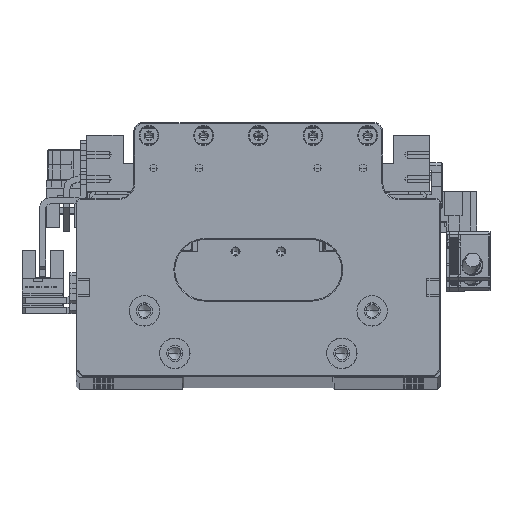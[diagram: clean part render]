
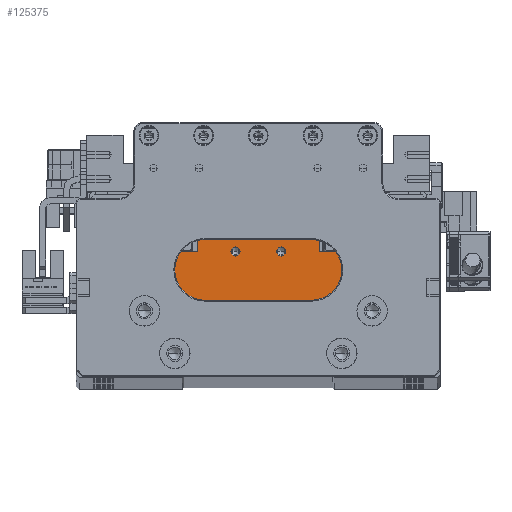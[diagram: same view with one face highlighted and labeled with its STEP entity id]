
A CAD part, top view. The second image highlights one B-rep face of the part: STEP entity #125375.
In plain terms, the highlighted planar face has unit normal (0, 0, 1).
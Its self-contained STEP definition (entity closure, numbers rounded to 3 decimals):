
#1750 = AXIS2_PLACEMENT_3D ( 'NONE', #100272, #33778, #111480 ) ;
#2420 = CARTESIAN_POINT ( 'NONE',  ( -90.125, 82.98, 462.722 ) ) ;
#2601 = CIRCLE ( 'NONE', #1750, 1.525 ) ;
#3699 = VECTOR ( 'NONE', #42097, 1000. ) ;
#4070 = AXIS2_PLACEMENT_3D ( 'NONE', #115747, #49251, #126898 ) ;
#6940 = DIRECTION ( 'NONE',  ( 1., 0., 0. ) ) ;
#10280 = DIRECTION ( 'NONE',  ( 0., -1., 0. ) ) ;
#11109 = EDGE_CURVE ( 'NONE', #32972, #106796, #76361, .T. ) ;
#11129 = VERTEX_POINT ( 'NONE', #43833 ) ;
#12467 = VERTEX_POINT ( 'NONE', #80370 ) ;
#12695 = ORIENTED_EDGE ( 'NONE', *, *, #24283, .F. ) ;
#13614 = DIRECTION ( 'NONE',  ( 1., 0., 0. ) ) ;
#15164 = VERTEX_POINT ( 'NONE', #122734 ) ;
#16088 = ORIENTED_EDGE ( 'NONE', *, *, #72941, .F. ) ;
#16217 = FACE_OUTER_BOUND ( 'NONE', #60492, .T. ) ;
#16906 = CARTESIAN_POINT ( 'NONE',  ( -112.525, 59.78, 462.722 ) ) ;
#19061 = PLANE ( 'NONE',  #138622 ) ;
#19140 = ORIENTED_EDGE ( 'NONE', *, *, #11109, .F. ) ;
#19682 = LINE ( 'NONE', #2420, #137843 ) ;
#20365 = VECTOR ( 'NONE', #82078, 1000. ) ;
#21344 = CARTESIAN_POINT ( 'NONE',  ( -75.125, 79.08, 462.722 ) ) ;
#23833 = EDGE_CURVE ( 'NONE', #106796, #43271, #78643, .T. ) ;
#24283 = EDGE_CURVE ( 'NONE', #110057, #15164, #121873, .T. ) ;
#24507 = CARTESIAN_POINT ( 'NONE',  ( -73.6, 79.08, 462.722 ) ) ;
#30212 = DIRECTION ( 'NONE',  ( -1., 0., 0. ) ) ;
#32528 = DIRECTION ( 'NONE',  ( 1., 0., 0. ) ) ;
#32972 = VERTEX_POINT ( 'NONE', #46946 ) ;
#33778 = DIRECTION ( 'NONE',  ( 0., 0., 1. ) ) ;
#35835 = EDGE_CURVE ( 'NONE', #43271, #140201, #100493, .T. ) ;
#36819 = CARTESIAN_POINT ( 'NONE',  ( -52.725, 59.78, 462.722 ) ) ;
#39933 = CARTESIAN_POINT ( 'NONE',  ( -62.625, 78.98, 462.722 ) ) ;
#42097 = DIRECTION ( 'NONE',  ( 0., 1., 0. ) ) ;
#43271 = VERTEX_POINT ( 'NONE', #119889 ) ;
#43833 = CARTESIAN_POINT ( 'NONE',  ( -88.6, 79.08, 462.722 ) ) ;
#44806 = VECTOR ( 'NONE', #6940, 1000. ) ;
#46438 = AXIS2_PLACEMENT_3D ( 'NONE', #21344, #99067, #32528 ) ;
#46946 = CARTESIAN_POINT ( 'NONE',  ( -62.625, 82.98, 462.722 ) ) ;
#49251 = DIRECTION ( 'NONE',  ( 0., 0., 1. ) ) ;
#51218 = ORIENTED_EDGE ( 'NONE', *, *, #54454, .F. ) ;
#52116 = ORIENTED_EDGE ( 'NONE', *, *, #126970, .F. ) ;
#52264 = VERTEX_POINT ( 'NONE', #16906 ) ;
#52857 = DIRECTION ( 'NONE',  ( 1., 0., 0. ) ) ;
#54454 = EDGE_CURVE ( 'NONE', #12467, #11129, #76360, .T. ) ;
#54475 = CARTESIAN_POINT ( 'NONE',  ( -102.625, 78.98, 462.722 ) ) ;
#55345 = ORIENTED_EDGE ( 'NONE', *, *, #23833, .F. ) ;
#55950 = AXIS2_PLACEMENT_3D ( 'NONE', #132338, #65863, #143525 ) ;
#56335 = VERTEX_POINT ( 'NONE', #24507 ) ;
#56394 = EDGE_LOOP ( 'NONE', ( #120077, #68560 ) ) ;
#59955 = EDGE_CURVE ( 'NONE', #56335, #110588, #123718, .T. ) ;
#60492 = EDGE_LOOP ( 'NONE', ( #52116, #68923, #74885, #77656, #55345, #19140, #73775, #12695 ) ) ;
#63240 = CARTESIAN_POINT ( 'NONE',  ( -112.525, 78.98, 462.722 ) ) ;
#65863 = DIRECTION ( 'NONE',  ( 0., 0., 1. ) ) ;
#68324 = FACE_BOUND ( 'NONE', #113363, .T. ) ;
#68560 = ORIENTED_EDGE ( 'NONE', *, *, #136800, .F. ) ;
#68923 = ORIENTED_EDGE ( 'NONE', *, *, #105090, .F. ) ;
#70953 = VECTOR ( 'NONE', #130375, 1000. ) ;
#72941 = EDGE_CURVE ( 'NONE', #11129, #12467, #114795, .T. ) ;
#73775 = ORIENTED_EDGE ( 'NONE', *, *, #139164, .F. ) ;
#73944 = CARTESIAN_POINT ( 'NONE',  ( -76.65, 79.08, 462.722 ) ) ;
#74885 = ORIENTED_EDGE ( 'NONE', *, *, #90933, .T. ) ;
#76360 = CIRCLE ( 'NONE', #4070, 1.525 ) ;
#76361 = LINE ( 'NONE', #87996, #138907 ) ;
#77656 = ORIENTED_EDGE ( 'NONE', *, *, #35835, .F. ) ;
#78643 = LINE ( 'NONE', #130536, #134172 ) ;
#80370 = CARTESIAN_POINT ( 'NONE',  ( -91.65, 79.08, 462.722 ) ) ;
#82078 = DIRECTION ( 'NONE',  ( 1., 0., 0. ) ) ;
#87996 = CARTESIAN_POINT ( 'NONE',  ( -62.625, 71.48, 462.722 ) ) ;
#90933 = EDGE_CURVE ( 'NONE', #52264, #140201, #109018, .T. ) ;
#93226 = CARTESIAN_POINT ( 'NONE',  ( -90.125, 59.78, 462.722 ) ) ;
#95828 = CARTESIAN_POINT ( 'NONE',  ( -90.125, 78.98, 462.722 ) ) ;
#96741 = DIRECTION ( 'NONE',  ( 0., 0., -1. ) ) ;
#96900 = CARTESIAN_POINT ( 'NONE',  ( -52.725, 71.48, 462.722 ) ) ;
#97845 = VERTEX_POINT ( 'NONE', #63240 ) ;
#99067 = DIRECTION ( 'NONE',  ( 0., 0., 1. ) ) ;
#99152 = VECTOR ( 'NONE', #137094, 1000. ) ;
#100272 = CARTESIAN_POINT ( 'NONE',  ( -75.125, 79.08, 462.722 ) ) ;
#100493 = LINE ( 'NONE', #96900, #70953 ) ;
#103859 = LINE ( 'NONE', #95828, #44806 ) ;
#105090 = EDGE_CURVE ( 'NONE', #52264, #97845, #128653, .T. ) ;
#106796 = VERTEX_POINT ( 'NONE', #39933 ) ;
#109018 = LINE ( 'NONE', #93226, #20365 ) ;
#110057 = VERTEX_POINT ( 'NONE', #54475 ) ;
#110588 = VERTEX_POINT ( 'NONE', #73944 ) ;
#111480 = DIRECTION ( 'NONE',  ( 1., 0., 0. ) ) ;
#113363 = EDGE_LOOP ( 'NONE', ( #16088, #51218 ) ) ;
#114795 = CIRCLE ( 'NONE', #55950, 1.525 ) ;
#115747 = CARTESIAN_POINT ( 'NONE',  ( -90.125, 79.08, 462.722 ) ) ;
#118093 = CARTESIAN_POINT ( 'NONE',  ( -90.125, 71.48, 462.722 ) ) ;
#119889 = CARTESIAN_POINT ( 'NONE',  ( -52.725, 78.98, 462.722 ) ) ;
#120077 = ORIENTED_EDGE ( 'NONE', *, *, #59955, .F. ) ;
#121873 = LINE ( 'NONE', #130446, #3699 ) ;
#122734 = CARTESIAN_POINT ( 'NONE',  ( -102.625, 82.98, 462.722 ) ) ;
#123718 = CIRCLE ( 'NONE', #46438, 1.525 ) ;
#125375 = ADVANCED_FACE ( 'NONE', ( #16217, #127378, #68324 ), #19061, .F. ) ;
#125903 = CARTESIAN_POINT ( 'NONE',  ( -112.525, 71.48, 462.722 ) ) ;
#126898 = DIRECTION ( 'NONE',  ( 1., 0., 0. ) ) ;
#126970 = EDGE_CURVE ( 'NONE', #97845, #110057, #103859, .T. ) ;
#127378 = FACE_BOUND ( 'NONE', #56394, .T. ) ;
#128653 = LINE ( 'NONE', #125903, #99152 ) ;
#130375 = DIRECTION ( 'NONE',  ( 0., -1., 0. ) ) ;
#130446 = CARTESIAN_POINT ( 'NONE',  ( -102.625, 71.48, 462.722 ) ) ;
#130536 = CARTESIAN_POINT ( 'NONE',  ( -90.125, 78.98, 462.722 ) ) ;
#132338 = CARTESIAN_POINT ( 'NONE',  ( -90.125, 79.08, 462.722 ) ) ;
#134172 = VECTOR ( 'NONE', #52857, 1000. ) ;
#136800 = EDGE_CURVE ( 'NONE', #110588, #56335, #2601, .T. ) ;
#137094 = DIRECTION ( 'NONE',  ( 0., 1., 0. ) ) ;
#137843 = VECTOR ( 'NONE', #13614, 1000. ) ;
#138622 = AXIS2_PLACEMENT_3D ( 'NONE', #118093, #96741, #30212 ) ;
#138907 = VECTOR ( 'NONE', #10280, 1000. ) ;
#139164 = EDGE_CURVE ( 'NONE', #15164, #32972, #19682, .T. ) ;
#140201 = VERTEX_POINT ( 'NONE', #36819 ) ;
#143525 = DIRECTION ( 'NONE',  ( 1., 0., 0. ) ) ;
